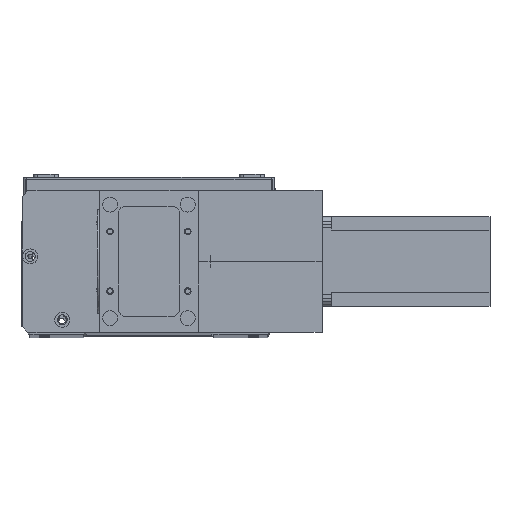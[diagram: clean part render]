
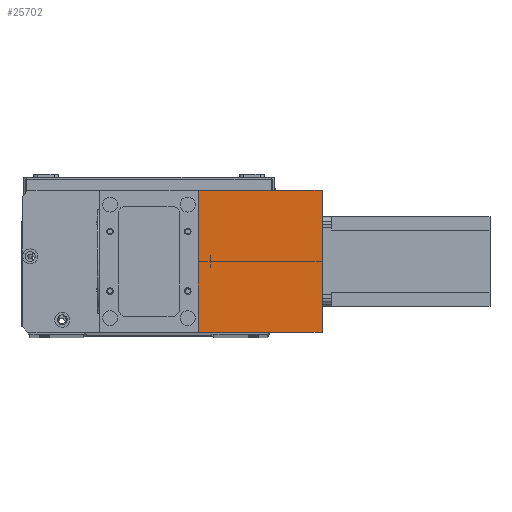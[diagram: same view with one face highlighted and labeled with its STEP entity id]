
A CAD part, top view. The second image highlights one B-rep face of the part: STEP entity #25702.
In plain terms, the highlighted planar face has unit normal (0, 0, 1) as drawn and (1, 0, 0) by its records, which use the part's own axes.
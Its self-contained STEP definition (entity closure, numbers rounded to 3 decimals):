
#1684 = DIRECTION ( 'NONE',  ( -1., 0., 0. ) ) ;
#3011 = VECTOR ( 'NONE', #24629, 1000. ) ;
#3106 = CARTESIAN_POINT ( 'NONE',  ( 82., 95., 83. ) ) ;
#4644 = CARTESIAN_POINT ( 'NONE',  ( 82., 0., 0. ) ) ;
#5422 = DIRECTION ( 'NONE',  ( 0., 0., -1. ) ) ;
#5566 = ORIENTED_EDGE ( 'NONE', *, *, #21716, .T. ) ;
#7181 = ORIENTED_EDGE ( 'NONE', *, *, #23348, .T. ) ;
#8486 = CARTESIAN_POINT ( 'NONE',  ( 82., 0., 83. ) ) ;
#8839 = CARTESIAN_POINT ( 'NONE',  ( 82., 95., 0. ) ) ;
#9760 = VECTOR ( 'NONE', #10712, 1000. ) ;
#9906 = ORIENTED_EDGE ( 'NONE', *, *, #24220, .F. ) ;
#10150 = VECTOR ( 'NONE', #5422, 1000. ) ;
#10348 = VERTEX_POINT ( 'NONE', #24043 ) ;
#10712 = DIRECTION ( 'NONE',  ( 0., 1., 0. ) ) ;
#12327 = AXIS2_PLACEMENT_3D ( 'NONE', #13040, #1684, #17505 ) ;
#13040 = CARTESIAN_POINT ( 'NONE',  ( 82., 0., 83. ) ) ;
#13448 = VERTEX_POINT ( 'NONE', #23041 ) ;
#13596 = LINE ( 'NONE', #19551, #24604 ) ;
#17505 = DIRECTION ( 'NONE',  ( 0., 0., 1. ) ) ;
#19551 = CARTESIAN_POINT ( 'NONE',  ( 82., 0., 83. ) ) ;
#21716 = EDGE_CURVE ( 'NONE', #22355, #10348, #13596, .T. ) ;
#21803 = PLANE ( 'NONE',  #12327 ) ;
#22355 = VERTEX_POINT ( 'NONE', #23554 ) ;
#22505 = FACE_OUTER_BOUND ( 'NONE', #24919, .T. ) ;
#22589 = LINE ( 'NONE', #3106, #10150 ) ;
#23041 = CARTESIAN_POINT ( 'NONE',  ( 82., 95., 83. ) ) ;
#23062 = VERTEX_POINT ( 'NONE', #8839 ) ;
#23348 = EDGE_CURVE ( 'NONE', #10348, #23062, #26625, .T. ) ;
#23536 = EDGE_CURVE ( 'NONE', #13448, #23062, #22589, .T. ) ;
#23554 = CARTESIAN_POINT ( 'NONE',  ( 82., 0., 83. ) ) ;
#23946 = DIRECTION ( 'NONE',  ( 0., 0., -1. ) ) ;
#24043 = CARTESIAN_POINT ( 'NONE',  ( 82., 0., 0. ) ) ;
#24220 = EDGE_CURVE ( 'NONE', #22355, #13448, #27217, .T. ) ;
#24604 = VECTOR ( 'NONE', #23946, 1000. ) ;
#24629 = DIRECTION ( 'NONE',  ( 0., 1., 0. ) ) ;
#24919 = EDGE_LOOP ( 'NONE', ( #7181, #26776, #9906, #5566 ) ) ;
#25702 = ADVANCED_FACE ( 'NONE', ( #22505 ), #21803, .F. ) ;
#26625 = LINE ( 'NONE', #4644, #3011 ) ;
#26776 = ORIENTED_EDGE ( 'NONE', *, *, #23536, .F. ) ;
#27217 = LINE ( 'NONE', #8486, #9760 ) ;
